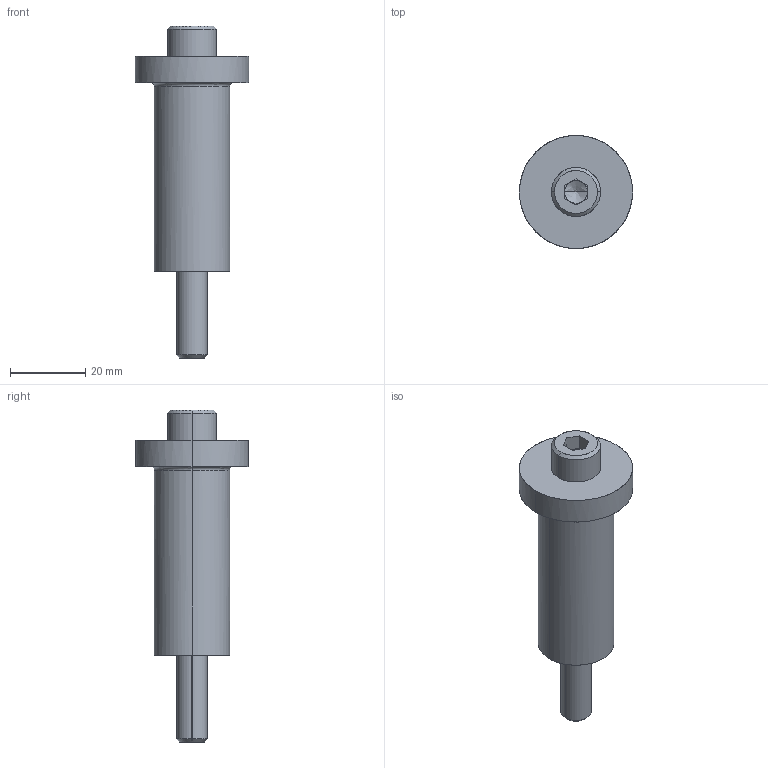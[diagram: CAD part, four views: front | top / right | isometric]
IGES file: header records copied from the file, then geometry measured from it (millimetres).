
Global section: file name: E:\UnigraphicsGraphicData\MISUMI_PRESS-PARTS\IGES\3d_sbwh20-50-80_05181_r00.igs; native system: NX V5.0; preprocessor: UGS NX IGES V5.0; author: MISUMI; date: 20110105.162515; units: millimetre
Bounding box: 30 x 30 x 88 mm (x, y, z)
Surface area: 9255 mm2 (no closed solid volume)
Topology: 0 solids, 0 shells, 36 faces, 220 edges, 218 vertices
Faces by surface type: bspline 36
